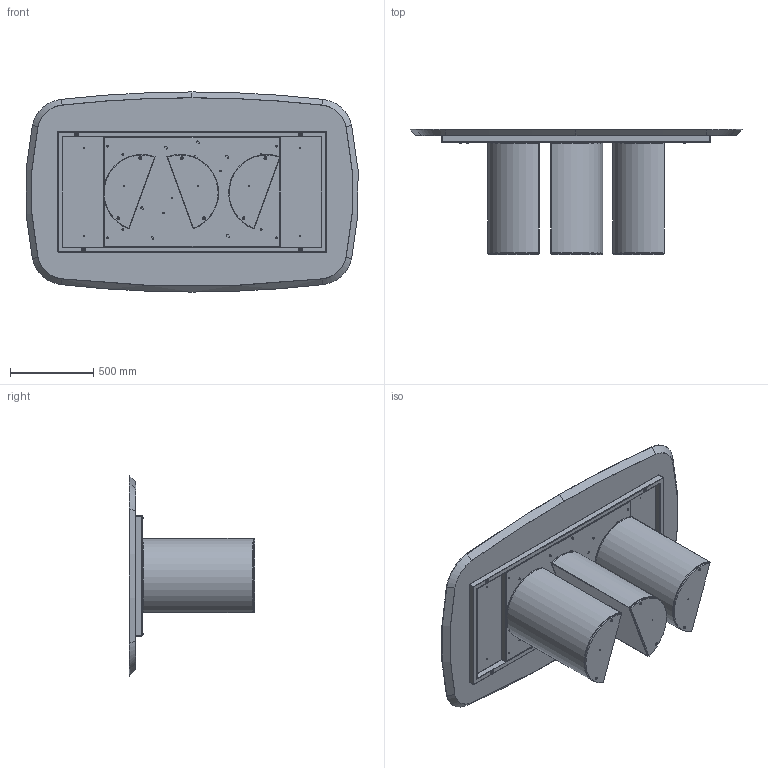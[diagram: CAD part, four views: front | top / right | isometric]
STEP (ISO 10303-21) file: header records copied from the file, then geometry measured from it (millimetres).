
FILE_DESCRIPTION (( 'STEP AP203' ), '1' );
FILE_NAME ('PL41W.STEP', '2024-08-07T13:54:38', ( '' ), ( '' ), 'SwSTEP 2.0', 'SolidWorks 2022', '' );
FILE_SCHEMA (( 'CONFIG_CONTROL_DESIGN' ));
Length unit declared in the file: millimetre
Products named in the file (14): M8xXXmm_M8x55mm; Assieme Basamento PLAI_Basamento per tavoli; TTAV0601_01-00-STRUTTURA X TAVOLI PLAI ONDA NOA 240; M8xXXmm_hex_M8X20mm; PL41W; TTAV0601-00-TELAIO X TAVOLI PLAI ONDA NOA 240cm_TTAV06; W4XCMXX-00-Piani Sagomati legno_ 2000 x 1200; TTAV0601_02-00-VASSOIO TAVOLI PLAI ONDA NOA 240; PLA000000ZOC-01-PLAI ZOCCOLO DELLA BASE; M8xXXmm_hex_M8X60mm; PLA000000BAS-00-PLAI BASE GREZZA; M8xXXmm_M8x20mm; rondella M8_8X24; COLLO TELAIO UNIVERSALE TTAV0601 CON FERRAMENTA_FERRAMENTA MTG TOP LEGNO-MARMO-KING
Assembly tree (32 placements, depth 4):
  PL41W
    COLLO TELAIO UNIVERSALE TTAV0601 CON FERRAMENTA_FERRAMENTA MTG TOP LEGNO-MARMO-KING
      TTAV0601-00-TELAIO X TAVOLI PLAI ONDA NOA 240cm_TTAV06
        TTAV0601_02-00-VASSOIO TAVOLI PLAI ONDA NOA 240
        TTAV0601_01-00-STRUTTURA X TAVOLI PLAI ONDA NOA 240
      rondella M8_8X24  x4
      M8xXXmm_M8x55mm  x4
    Assieme Basamento PLAI_Basamento per tavoli  x3
      PLA000000BAS-00-PLAI BASE GREZZA
      PLA000000ZOC-01-PLAI ZOCCOLO DELLA BASE
      M8xXXmm_hex_M8X60mm
      M8xXXmm_hex_M8X20mm
    rondella M8_8X24  x6
    M8xXXmm_M8x20mm  x6
    W4XCMXX-00-Piani Sagomati legno_ 2000 x 1200
Bounding box: 1990.53 x 752 x 1200 mm (x, y, z)
Volume: 94214833 mm3; surface area: 13218977.8 mm2
Topology: 44 solids, 44 shells, 1307 faces, 2958 edges, 1703 vertices
Faces by surface type: plane 507, cylinder 370, cone 281, torus 141, sphere 8
Entity records: 21338 total; most frequent: DIRECTION 3580, CARTESIAN_POINT 3366, ORIENTED_EDGE 3124, EDGE_CURVE 1562, AXIS2_PLACEMENT_3D 1353, VERTEX_POINT 935, LINE 874, VECTOR 874
